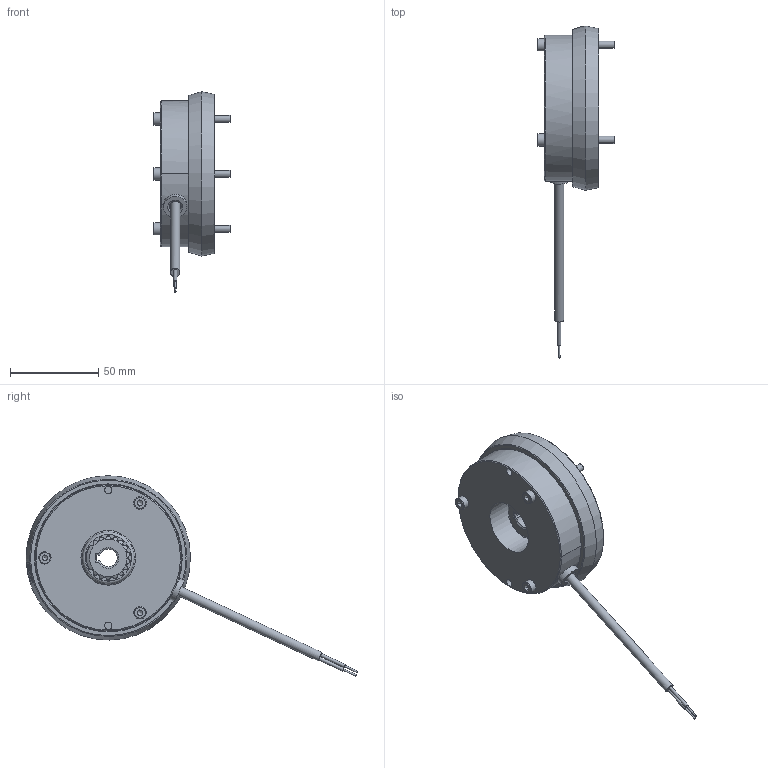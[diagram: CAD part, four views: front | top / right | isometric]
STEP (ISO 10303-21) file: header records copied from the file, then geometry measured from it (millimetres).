
FILE_DESCRIPTION(/* description */ (''),/* implementation_level */ '2;1');
FILE_NAME(/* name */ 'C:\SapWorkDir\Inventor\IP1\ConvertTempPath\5029475_IPT_000.ipt.stp',/* time_stamp */ '2021-04-20T13:51:27+02:00',/* author */ ('WOELK'),/* organization */ (''),/* preprocessor_version */ 'ST-DEVELOPER v17',/* originating_system */ 'Autodesk Inventor 2018',/* authorisation */ '');
FILE_SCHEMA (('AUTOMOTIVE_DESIGN { 1 0 10303 214 3 1 1 }'));
Length unit declared in the file: millimetre
Products named in the file (1): 5029475
Bounding box: 44 x 188.34 x 113.85 mm (x, y, z)
Volume: 145806.6 mm3; surface area: 57573.8 mm2
Topology: 1 solids, 1 shells, 569 faces, 1784 edges, 1194 vertices
Faces by surface type: cylinder 204, plane 201, bspline 80, cone 44, torus 40
Full cylindrical faces by diameter (mm): 1 x2, 1.85 x2, 4 x3, 4.15 x3, 4.2 x5, 4.5 x6, 5.3 x1, 5.5 x1, 6 x1, 6.188 x3, 6.6 x1, 6.7 x1, 7 x6, 7.3 x3, 9 x3, 13.2 x1, 29.4 x1, 31 x2, 36 x1, 60 x1, 83 x1
Entity records: 26141 total; most frequent: CARTESIAN_POINT 9707, ORIENTED_EDGE 3560, DIRECTION 3123, EDGE_CURVE 1780, AXIS2_PLACEMENT_3D 1224, VERTEX_POINT 1194, CIRCLE 734, LINE 675
